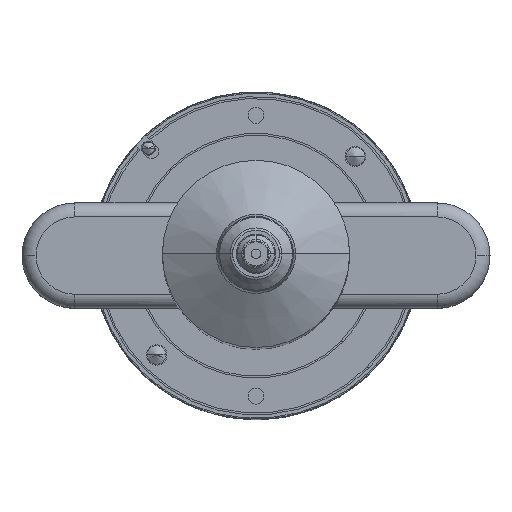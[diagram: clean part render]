
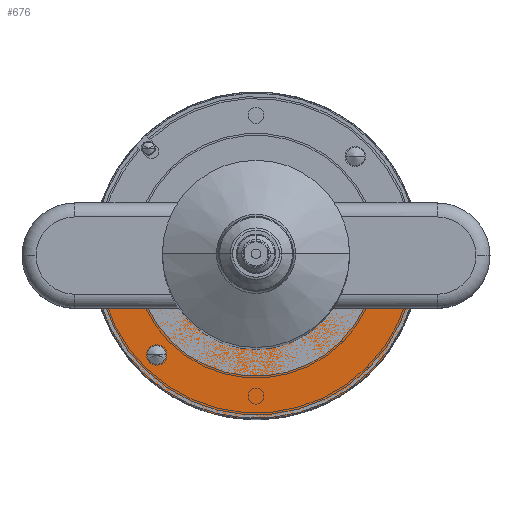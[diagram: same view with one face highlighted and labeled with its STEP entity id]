
A CAD part, top view. The second image highlights one B-rep face of the part: STEP entity #676.
In plain terms, the highlighted planar face has unit normal (0, 0, 1).
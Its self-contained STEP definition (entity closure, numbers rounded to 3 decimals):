
#56 = VERTEX_POINT ( 'NONE', #6106 ) ;
#59 = VERTEX_POINT ( 'NONE', #6109 ) ;
#676 = ADVANCED_FACE ( 'NONE', ( #9354, #9355 ), #9018, .F. ) ;
#1529 = EDGE_LOOP ( 'NONE', ( #3005, #3006, #3007, #3008 ) ) ;
#1530 = EDGE_LOOP ( 'NONE', ( #3009, #3010 ) ) ;
#1658 = EDGE_CURVE ( 'NONE', #2392, #2369, #12200, .T. ) ;
#2369 = VERTEX_POINT ( 'NONE', #15179 ) ;
#2375 = VERTEX_POINT ( 'NONE', #15185 ) ;
#2392 = VERTEX_POINT ( 'NONE', #15202 ) ;
#2398 = VERTEX_POINT ( 'NONE', #15208 ) ;
#3005 = ORIENTED_EDGE ( 'NONE', *, *, #1658, .F. ) ;
#3006 = ORIENTED_EDGE ( 'NONE', *, *, #5632, .T. ) ;
#3007 = ORIENTED_EDGE ( 'NONE', *, *, #5556, .T. ) ;
#3008 = ORIENTED_EDGE ( 'NONE', *, *, #5620, .T. ) ;
#3009 = ORIENTED_EDGE ( 'NONE', *, *, #5602, .F. ) ;
#3010 = ORIENTED_EDGE ( 'NONE', *, *, #5491, .F. ) ;
#5491 = EDGE_CURVE ( 'NONE', #59, #56, #25675, .T. ) ;
#5556 = EDGE_CURVE ( 'NONE', #2398, #2375, #25767, .T. ) ;
#5602 = EDGE_CURVE ( 'NONE', #56, #59, #27171, .T. ) ;
#5620 = EDGE_CURVE ( 'NONE', #2375, #2369, #27201, .T. ) ;
#5632 = EDGE_CURVE ( 'NONE', #2392, #2398, #27225, .T. ) ;
#6106 = CARTESIAN_POINT ( 'NONE',  ( -46.426, -42.426, 32. ) ) ;
#6109 = CARTESIAN_POINT ( 'NONE',  ( -38.426, -42.426, 32. ) ) ;
#7892 = AXIS2_PLACEMENT_3D ( 'NONE', #9019, #9020, #9021 ) ;
#8171 = AXIS2_PLACEMENT_3D ( 'NONE', #12741, #12742, #12743 ) ;
#9018 = PLANE ( 'NONE',  #7892 ) ;
#9019 = CARTESIAN_POINT ( 'NONE',  ( 0., 40., 32. ) ) ;
#9020 = DIRECTION ( 'NONE',  ( 0., 0., -1. ) ) ;
#9021 = DIRECTION ( 'NONE',  ( -1., 0., 0. ) ) ;
#9354 = FACE_OUTER_BOUND ( 'NONE', #1529, .T. ) ;
#9355 = FACE_BOUND ( 'NONE', #1530, .T. ) ;
#12200 = CIRCLE ( 'NONE', #8171, 70. ) ;
#12741 = CARTESIAN_POINT ( 'NONE',  ( 0., 0., 32. ) ) ;
#12742 = DIRECTION ( 'NONE',  ( 0., 0., -1. ) ) ;
#12743 = DIRECTION ( 'NONE',  ( -1., 0., 0. ) ) ;
#15179 = CARTESIAN_POINT ( 'NONE',  ( -66.285, -22.5, 32. ) ) ;
#15185 = CARTESIAN_POINT ( 'NONE',  ( -33.072, -22.5, 32. ) ) ;
#15202 = CARTESIAN_POINT ( 'NONE',  ( 66.285, -22.5, 32. ) ) ;
#15208 = CARTESIAN_POINT ( 'NONE',  ( 33.072, -22.5, 32. ) ) ;
#23503 = AXIS2_PLACEMENT_3D ( 'NONE', #26096, #26097, #26098 ) ;
#23535 = AXIS2_PLACEMENT_3D ( 'NONE', #26316, #26317, #26318 ) ;
#23571 = AXIS2_PLACEMENT_3D ( 'NONE', #26454, #26455, #26456 ) ;
#25675 = CIRCLE ( 'NONE', #23503, 4. ) ;
#25767 = CIRCLE ( 'NONE', #23535, 40. ) ;
#26096 = CARTESIAN_POINT ( 'NONE',  ( -42.426, -42.426, 32. ) ) ;
#26097 = DIRECTION ( 'NONE',  ( 0., 0., 1. ) ) ;
#26098 = DIRECTION ( 'NONE',  ( -1., 0., 0. ) ) ;
#26316 = CARTESIAN_POINT ( 'NONE',  ( 0., 0., 32. ) ) ;
#26317 = DIRECTION ( 'NONE',  ( 0., 0., -1. ) ) ;
#26318 = DIRECTION ( 'NONE',  ( -1., 0., 0. ) ) ;
#26454 = CARTESIAN_POINT ( 'NONE',  ( -42.426, -42.426, 32. ) ) ;
#26455 = DIRECTION ( 'NONE',  ( 0., 0., 1. ) ) ;
#26456 = DIRECTION ( 'NONE',  ( -1., 0., 0. ) ) ;
#26495 = CARTESIAN_POINT ( 'NONE',  ( 0., -22.5, 32. ) ) ;
#26496 = DIRECTION ( 'NONE',  ( -1., 0., 0. ) ) ;
#26519 = CARTESIAN_POINT ( 'NONE',  ( 0., -22.5, 32. ) ) ;
#26520 = DIRECTION ( 'NONE',  ( -1., 0., 0. ) ) ;
#27171 = CIRCLE ( 'NONE', #23571, 4. ) ;
#27201 = LINE ( 'NONE', #26495, #27202 ) ;
#27202 = VECTOR ( 'NONE', #26496, 1000. ) ;
#27225 = LINE ( 'NONE', #26519, #27226 ) ;
#27226 = VECTOR ( 'NONE', #26520, 1000. ) ;
